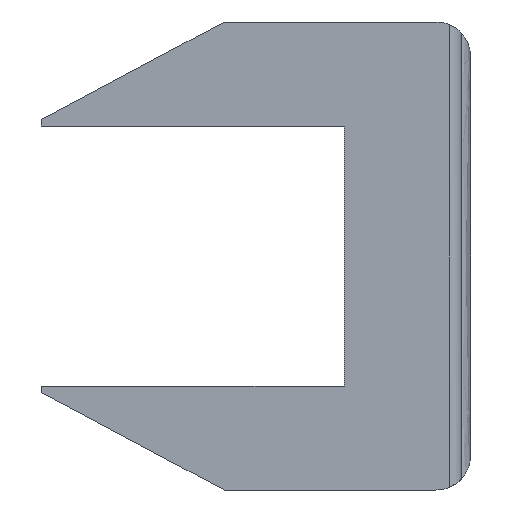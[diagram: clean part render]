
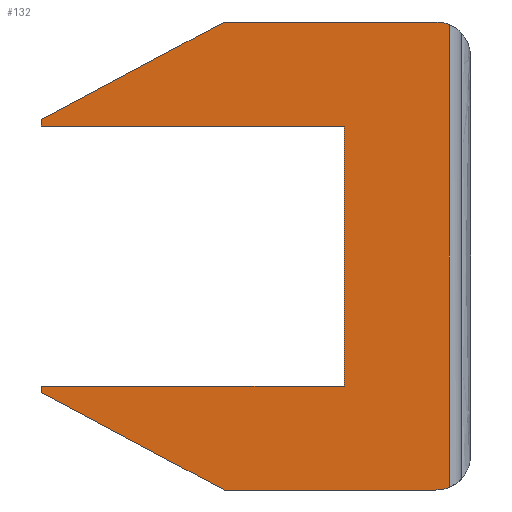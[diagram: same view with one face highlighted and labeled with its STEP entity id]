
A CAD part, front view. The second image highlights one B-rep face of the part: STEP entity #132.
In plain terms, the highlighted planar face has unit normal (0, -1, 0).
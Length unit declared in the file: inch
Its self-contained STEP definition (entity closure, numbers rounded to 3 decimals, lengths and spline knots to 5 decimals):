
#132=ADVANCED_FACE('',(#262),#263,.F.);
#262=FACE_OUTER_BOUND('',#500,.T.);
#263=PLANE('',#501);
#500=EDGE_LOOP('',(#794,#795,#796,#797,#798,#799,#800,#801,#802,#803,#804,#805));
#501=AXIS2_PLACEMENT_3D('',#806,#807,#808);
#794=ORIENTED_EDGE('',*,*,#944,.F.);
#795=ORIENTED_EDGE('',*,*,#939,.F.);
#796=ORIENTED_EDGE('',*,*,#879,.F.);
#797=ORIENTED_EDGE('',*,*,#857,.F.);
#798=ORIENTED_EDGE('',*,*,#909,.F.);
#799=ORIENTED_EDGE('',*,*,#942,.F.);
#800=ORIENTED_EDGE('',*,*,#875,.F.);
#801=ORIENTED_EDGE('',*,*,#931,.F.);
#802=ORIENTED_EDGE('',*,*,#950,.F.);
#803=ORIENTED_EDGE('',*,*,#925,.F.);
#804=ORIENTED_EDGE('',*,*,#953,.F.);
#805=ORIENTED_EDGE('',*,*,#853,.T.);
#806=CARTESIAN_POINT('',(0.29303,0.0,-0.63169));
#807=DIRECTION('',(0.0,1.0,0.));
#808=DIRECTION('',(-1.0,0.0,0.0));
#853=EDGE_CURVE('',#1020,#1017,#1021,.T.);
#857=EDGE_CURVE('',#1026,#1027,#1028,.T.);
#875=EDGE_CURVE('',#1057,#1058,#1059,.T.);
#879=EDGE_CURVE('',#1027,#1063,#1064,.T.);
#909=EDGE_CURVE('',#1110,#1026,#1111,.T.);
#925=EDGE_CURVE('',#1132,#1133,#1134,.T.);
#931=EDGE_CURVE('',#1140,#1057,#1141,.T.);
#939=EDGE_CURVE('',#1063,#1151,#1152,.T.);
#942=EDGE_CURVE('',#1058,#1110,#1155,.T.);
#944=EDGE_CURVE('',#1151,#1017,#1157,.T.);
#950=EDGE_CURVE('',#1133,#1140,#1163,.T.);
#953=EDGE_CURVE('',#1020,#1132,#1166,.T.);
#1017=VERTEX_POINT('',#1316);
#1020=VERTEX_POINT('',#1330);
#1021=LINE('',#1331,#1332);
#1026=VERTEX_POINT('',#1349);
#1027=VERTEX_POINT('',#1350);
#1028=LINE('',#1351,#1352);
#1057=VERTEX_POINT('',#1404);
#1058=VERTEX_POINT('',#1405);
#1059=LINE('',#1406,#1407);
#1063=VERTEX_POINT('',#1413);
#1064=LINE('',#1414,#1415);
#1110=VERTEX_POINT('',#1536);
#1111=LINE('',#1537,#1538);
#1132=VERTEX_POINT('',#1588);
#1133=VERTEX_POINT('',#1589);
#1134=LINE('',#1590,#1591);
#1140=VERTEX_POINT('',#1601);
#1141=LINE('',#1602,#1603);
#1151=VERTEX_POINT('',#1636);
#1152=LINE('',#1637,#1638);
#1155=LINE('',#1642,#1643);
#1157=B_SPLINE_CURVE_WITH_KNOTS('',3,(#1645,#1646,#1647,#1648,#1649,#1650),.UNSPECIFIED.,.F.,.F.,(4,2,4),(-0.25564,-0.12564,-0.0),.UNSPECIFIED.);
#1163=LINE('',#1671,#1672);
#1166=B_SPLINE_CURVE_WITH_KNOTS('',3,(#1675,#1676,#1677,#1678,#1679,#1680),.UNSPECIFIED.,.F.,.F.,(4,2,4),(-0.2559,-0.13013,-0.0),.UNSPECIFIED.);
#1316=CARTESIAN_POINT('',(3.24781,0.,6.71085));
#1330=CARTESIAN_POINT('',(3.24781,0.,0.03915));
#1331=CARTESIAN_POINT('',(3.24781,0.0,-0.63169));
#1332=VECTOR('',#1717,1.0);
#1349=CARTESIAN_POINT('',(-2.63397,0.,5.25));
#1350=CARTESIAN_POINT('',(-2.63397,0.,5.34375));
#1351=CARTESIAN_POINT('',(-2.63397,0.,2.33259));
#1352=VECTOR('',#1719,1.0);
#1404=CARTESIAN_POINT('',(-2.63397,0.,1.5));
#1405=CARTESIAN_POINT('',(1.73205,0.,1.5));
#1406=CARTESIAN_POINT('',(-0.07897,0.,1.5));
#1407=VECTOR('',#1731,1.0);
#1413=CARTESIAN_POINT('',(0.0,0.,6.75));
#1414=CARTESIAN_POINT('',(-2.0779,0.,5.64063));
#1415=VECTOR('',#1734,1.0);
#1536=CARTESIAN_POINT('',(1.73205,0.,5.25));
#1537=CARTESIAN_POINT('',(-0.07897,0.,5.25));
#1538=VECTOR('',#1747,1.0);
#1588=CARTESIAN_POINT('',(3.05353,0.,0.));
#1589=CARTESIAN_POINT('',(0.0,0.,0.));
#1590=CARTESIAN_POINT('',(0.9099,0.,0.));
#1591=VECTOR('',#1754,1.0);
#1601=CARTESIAN_POINT('',(-2.63397,0.,1.40625));
#1602=CARTESIAN_POINT('',(-2.63397,0.,0.41072));
#1603=VECTOR('',#1759,1.0);
#1636=CARTESIAN_POINT('',(3.05353,0.,6.75));
#1637=CARTESIAN_POINT('',(0.9099,0.,6.75));
#1638=VECTOR('',#1761,1.0);
#1642=CARTESIAN_POINT('',(1.73205,0.,1.37166));
#1643=VECTOR('',#1763,1.0);
#1645=CARTESIAN_POINT('',(3.05353,0.,6.75));
#1646=CARTESIAN_POINT('',(3.09691,0.,6.75));
#1647=CARTESIAN_POINT('',(3.13994,0.,6.74448));
#1648=CARTESIAN_POINT('',(3.22235,0.,6.72266));
#1649=CARTESIAN_POINT('',(3.26129,0.,6.70686));
#1650=CARTESIAN_POINT('',(3.29781,0.,6.68637));
#1671=CARTESIAN_POINT('',(-0.41325,0.,0.22063));
#1672=VECTOR('',#1766,1.0);
#1675=CARTESIAN_POINT('',(3.29781,0.,0.06364));
#1676=CARTESIAN_POINT('',(3.26129,0.,0.04314));
#1677=CARTESIAN_POINT('',(3.22235,0.,0.02734));
#1678=CARTESIAN_POINT('',(3.13994,0.,0.00552));
#1679=CARTESIAN_POINT('',(3.09691,0.,0.));
#1680=CARTESIAN_POINT('',(3.05353,0.,0.));
#1717=DIRECTION('',(0.0,0.,1.0));
#1719=DIRECTION('',(0.0,0.,1.0));
#1731=DIRECTION('',(1.0,0.0,0.0));
#1734=DIRECTION('',(0.882,0.,0.471));
#1747=DIRECTION('',(-1.0,0.0,0.0));
#1754=DIRECTION('',(-1.0,0.0,0.0));
#1759=DIRECTION('',(0.0,0.,1.0));
#1761=DIRECTION('',(1.0,0.0,0.0));
#1763=DIRECTION('',(0.0,0.,1.0));
#1766=DIRECTION('',(-0.882,0.,0.471));
